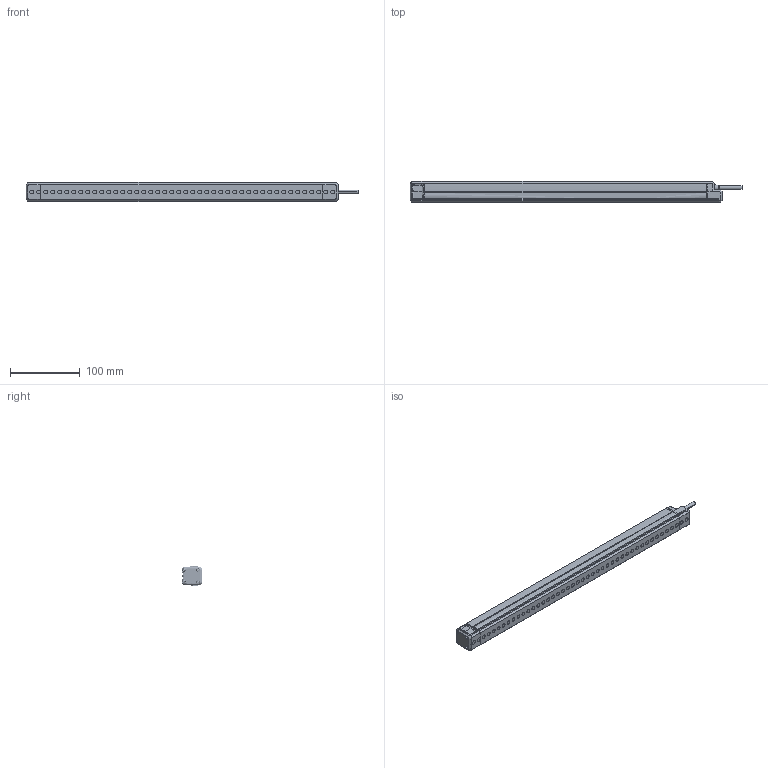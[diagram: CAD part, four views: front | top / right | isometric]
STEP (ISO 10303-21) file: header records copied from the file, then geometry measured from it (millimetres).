
FILE_DESCRIPTION((''),'2;1');
FILE_NAME('EFP-4410_ASM','2022-12-27T15:54:26',('18720616900'),(''),'CREO PARAMETRIC BY PTC INC, 2019010','CREO PARAMETRIC BY PTC INC, 2019010','');
FILE_SCHEMA(('CONFIG_CONTROL_DESIGN'));
Products named in the file (9): EFP-3-_A; EFP-3-_AF; EFP2-0; M26-14; M26-30; _0002; _0001_ASM; EFP-4410_ASM
Assembly tree (14 placements, depth 3):
  EFP-4410_ASM
    EFP-3-_A
    EFP-3-_AF
    EFP-3-_AF
    EFP2-0
    M26-14  x2
    M26-30  x6
    _0001_ASM
      _0002
Bounding box: 474.4 x 30 x 28.01 mm (x, y, z)
Volume: 323002.1 mm3; surface area: 86967 mm2
Topology: 13 solids, 649 shells, 3046 faces, 9775 edges, 7453 vertices
Faces by surface type: bspline 1174, plane 745, cylinder 450, cone 450, extrusion 161, torus 60, revolution 4, sphere 2
Entity records: 141886 total; most frequent: CARTESIAN_POINT 81516, ORIENTED_EDGE 12004, DIRECTION 9057, EDGE_CURVE 7959, VERTEX_POINT 6332, VECTOR 4035, LINE 3874, B_SPLINE_CURVE_WITH_KNOTS 3082
